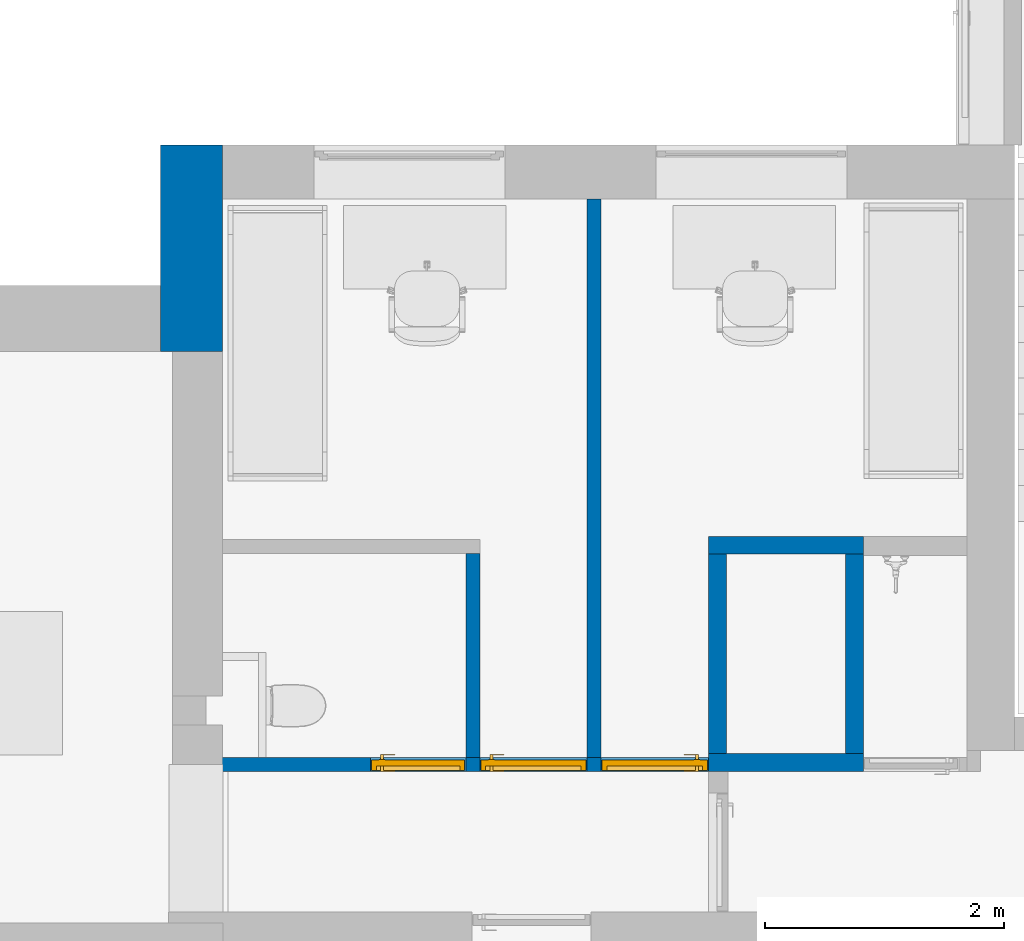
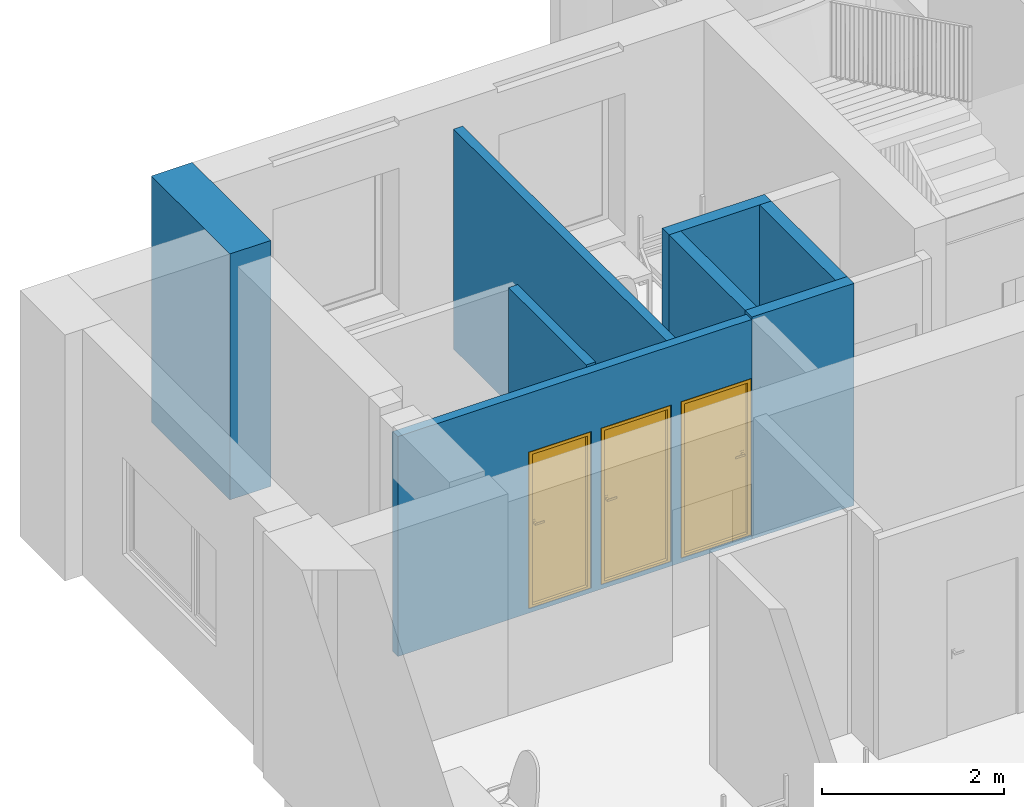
# One storey, part 7 of 46: 8 walls, 3 doors, 7 openings.
"""IFC2X3 building model written with IfcOpenShell, lengths in millimetres."""

from ifc_helpers import new_model, entity, si_unit, converted_unit, derived_unit, direction, frame, frame_2d, origin, place, context, subcontext, project, spatial, rectangle, extrude, faceted_brep, source, transform, mapped, material, material_list, layer, layer_set, layer_usage, type_object, type_shapes, element, fill, save


model = new_model("IFC2X3")

# Units and contexts
model_context = context("Model", 3, precision=0.01, world=origin(), true_north=direction((6.12303176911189e-17, 1.0)))
body_context = subcontext(model_context, "Body", "Model", "MODEL_VIEW")
ifc_project = project(units=[si_unit("LENGTHUNIT", "METRE", prefix="MILLI"), si_unit("AREAUNIT", "SQUARE_METRE"), si_unit("VOLUMEUNIT", "CUBIC_METRE"), converted_unit("PLANEANGLEUNIT", "DEGREE", entity("IfcRatioMeasure", 0.0174532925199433), si_unit("PLANEANGLEUNIT", "RADIAN"), dimensions=[0, 0, 0, 0, 0, 0, 0]), si_unit("MASSUNIT", "GRAM", prefix="KILO"), derived_unit("MASSDENSITYUNIT", [(si_unit("MASSUNIT", "GRAM", prefix="KILO"), 1), (si_unit("LENGTHUNIT", "METRE"), -3)]), si_unit("TIMEUNIT", "SECOND"), si_unit("FREQUENCYUNIT", "HERTZ"), si_unit("THERMODYNAMICTEMPERATUREUNIT", "DEGREE_CELSIUS"), derived_unit("THERMALTRANSMITTANCEUNIT", [(si_unit("MASSUNIT", "GRAM", prefix="KILO"), 1), (si_unit("THERMODYNAMICTEMPERATUREUNIT", "KELVIN"), -1), (si_unit("TIMEUNIT", "SECOND"), -3)]), derived_unit("VOLUMETRICFLOWRATEUNIT", [(si_unit("LENGTHUNIT", "METRE"), 3), (si_unit("TIMEUNIT", "SECOND"), -1)]), si_unit("ELECTRICCURRENTUNIT", "AMPERE"), si_unit("ELECTRICVOLTAGEUNIT", "VOLT"), si_unit("POWERUNIT", "WATT"), si_unit("FORCEUNIT", "NEWTON", prefix="KILO"), si_unit("ILLUMINANCEUNIT", "LUX"), si_unit("LUMINOUSFLUXUNIT", "LUMEN"), si_unit("LUMINOUSINTENSITYUNIT", "CANDELA"), derived_unit("USERDEFINED", [(si_unit("MASSUNIT", "GRAM", prefix="KILO"), -1), (si_unit("LENGTHUNIT", "METRE"), -2), (si_unit("TIMEUNIT", "SECOND"), 3), (si_unit("LUMINOUSFLUXUNIT", "LUMEN"), 1)]), derived_unit("LINEARVELOCITYUNIT", [(si_unit("LENGTHUNIT", "METRE"), 1), (si_unit("TIMEUNIT", "SECOND"), -1)]), si_unit("PRESSUREUNIT", "PASCAL"), derived_unit("USERDEFINED", [(si_unit("LENGTHUNIT", "METRE"), -2), (si_unit("MASSUNIT", "GRAM", prefix="KILO"), 1), (si_unit("TIMEUNIT", "SECOND"), -2)]), derived_unit("LINEARFORCEUNIT", [(si_unit("MASSUNIT", "GRAM", prefix="KILO"), 1), (si_unit("LENGTHUNIT", "METRE"), 1), (si_unit("TIMEUNIT", "SECOND"), -2), (si_unit("LENGTHUNIT", "METRE"), -1)]), derived_unit("PLANARFORCEUNIT", [(si_unit("MASSUNIT", "GRAM", prefix="KILO"), 1), (si_unit("LENGTHUNIT", "METRE"), 1), (si_unit("TIMEUNIT", "SECOND"), -2), (si_unit("LENGTHUNIT", "METRE"), -2)])], contexts=[model_context])

# Site, building, storey
site_placement = place(None, origin())
site = spatial("IfcSite", under=ifc_project, at=site_placement, Name="Default", CompositionType="ELEMENT")
building_placement = place(site_placement, origin())
building = spatial("IfcBuilding", under=site, at=building_placement, Name="SMA ARH", CompositionType="ELEMENT")
storey_placement = place(building_placement, origin())
storey = spatial("IfcBuildingStorey", under=building, at=storey_placement, Name="1 Korrus", CompositionType="ELEMENT", Elevation=0.0)

# Walls
ifc_material_1 = material(Name="_ol.olev sein")
ifc_layer_1 = layer(ifc_material_1, 520.0)
ifc_layer_set_1 = layer_set([ifc_layer_1], Name="Basic Wall:Generic - 520mm")
ifc_layer_usage_1 = layer_usage(ifc_layer_set_1, "AXIS2", "NEGATIVE", 260.0)
wall_type_1 = type_object("IfcWallType", Name="Basic Wall:Generic - 520mm", PredefinedType="STANDARD", material=ifc_layer_set_1)
wall_1_placement = place(storey_placement, frame((1905.0, 11220.0, 0.0), z_axis=(0.0, 0.0, 1.0), x_axis=(0.0, 1.0, 0.0)))
element("IfcWallStandardCase", 1, at=wall_1_placement, inside=storey, type_object=wall_type_1, material=ifc_layer_usage_1, Name="Basic Wall:Generic - 520mm", ObjectType="Basic Wall:Generic - 520mm", context=body_context, shape_type="SweptSolid", body=[
    extrude(rectangle(XDim=1726.2030428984, YDim=520.0, at=frame_2d((863.101521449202, -5.6843418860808e-14), x_axis=(-1.0, 0.0))), origin(), (0.0, 0.0, 1.0), 3299.99999999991),
])
ifc_material_2 = material(Name="EST. Müüritis. Väikeplokk. Kergkruusplokk")
ifc_layer_2 = layer(ifc_material_2, 150.0)
ifc_layer_set_2 = layer_set([ifc_layer_2], Name="Basic Wall:SS-02_ 150mm šahtide vahesein")
ifc_layer_usage_2 = layer_usage(ifc_layer_set_2, "AXIS2", "POSITIVE", -75.0)
wall_type_2 = type_object("IfcWallType", Name="Basic Wall:SS-02_ 150mm šahtide vahesein", PredefinedType="STANDARD", material=ifc_layer_set_2)
wall_2_placement = place(storey_placement, frame((6235.32130046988, 9595.0, 0.0)))
element("IfcWallStandardCase", 2, at=wall_2_placement, inside=storey, type_object=wall_type_2, material=ifc_layer_usage_2, Name="Basic Wall:SS-02_ 150mm šahtide vahesein", ObjectType="Basic Wall:SS-02_ 150mm šahtide vahesein", context=body_context, shape_type="SweptSolid", body=[
    extrude(rectangle(XDim=1298.40364972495, YDim=150.000000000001, at=frame_2d((649.201824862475, -4.9737991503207e-14), x_axis=(-1.0, 0.0))), origin(), (0.0, 0.0, 1.0), 2979.99999999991),
])

# Wall, openings
ifc_layer_usage_3 = layer_usage(ifc_layer_set_2, "AXIS2", "POSITIVE", -75.0)
wall_3_placement = place(storey_placement, frame((7533.72495019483, 7775.0, 0.0), z_axis=(0.0, 0.0, 1.0), x_axis=(-1.0, 0.0, 0.0)))
wall_3 = element("IfcWallStandardCase", 3, at=wall_3_placement, inside=storey, type_object=wall_type_2, material=ifc_layer_usage_3, Name="Basic Wall:SS-02_ 150mm šahtide vahesein", ObjectType="Basic Wall:SS-02_ 150mm šahtide vahesein", context=body_context, shape_type="SweptSolid", body=[
    extrude(rectangle(XDim=1298.40364972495, YDim=150.000000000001, at=frame_2d((649.201824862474, -4.9737991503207e-14), x_axis=(-1.0, 0.0))), origin(), (0.0, 0.0, 1.0), 2979.99999999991),
])
opening_1_placement = place(wall_3_placement, origin())
element("IfcOpeningElement", 4, at=opening_1_placement, cuts=wall_3, Name="Basic Wall:SS-02_ 150mm šahtide vahesein", ObjectType="Opening", context=body_context, shape_type="SweptSolid", body=[
    extrude(rectangle(XDim=2099.99999999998, YDim=900.0, at=frame_2d((5.40012479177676e-13, 0.0), x_axis=(0.0, 1.0))), frame((1748.40364972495, -1449.0, 1110.0), z_axis=(0.0, 1.0, 0.0), x_axis=(-1.0, 0.0, 0.0)), (0.0, 0.0, 1.0), 3048.0),
])
opening_2_placement = place(wall_3_placement, origin())
element("IfcOpeningElement", 5, at=opening_2_placement, cuts=wall_3, Name="Basic Wall:SS-02_ 150mm šahtide vahesein", ObjectType="Opening", context=body_context, shape_type="SweptSolid", body=[
    extrude(rectangle(XDim=2099.99999999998, YDim=800.0, at=frame_2d((0.0, -1.13686837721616e-13), x_axis=(0.0, 1.0))), frame((-400.0, -1565.0, 1110.0), z_axis=(0.0, 1.0, 0.0), x_axis=(-1.0, 0.0, 0.0)), (0.0, 0.0, 1.0), 3048.0),
])

# Wall, opening
ifc_layer_usage_4 = layer_usage(ifc_layer_set_2, "AXIS2", "POSITIVE", -75.0)
wall_4_placement = place(storey_placement, frame((6310.32130046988, 7850.0, 0.0), z_axis=(0.0, 0.0, 1.0), x_axis=(0.0, 1.0, 0.0)))
wall_4 = element("IfcWallStandardCase", 6, at=wall_4_placement, inside=storey, type_object=wall_type_2, material=ifc_layer_usage_4, Name="Basic Wall:SS-02_ 150mm šahtide vahesein", ObjectType="Basic Wall:SS-02_ 150mm šahtide vahesein", context=body_context, shape_type="SweptSolid", body=[
    extrude(rectangle(XDim=1669.99999999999, YDim=150.000000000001, at=frame_2d((834.999999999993, 0.0), x_axis=(-1.0, 0.0))), origin(), (0.0, 0.0, 1.0), 2979.99999999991),
])
opening_3_placement = place(wall_4_placement, origin())
element("IfcOpeningElement", 7, at=opening_3_placement, cuts=wall_4, Name="Basic Wall:SS-02_ 150mm šahtide vahesein", ObjectType="Opening", context=body_context, shape_type="SweptSolid", body=[
    extrude(rectangle(XDim=2099.99999999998, YDim=116.0, at=frame_2d((0.0, 0.0), x_axis=(0.0, 1.0))), frame((-92.0, 75.0, 1110.0), z_axis=(0.0, 1.0, 0.0), x_axis=(-1.0, 0.0, 0.0)), (0.0, 0.0, 1.0), 900.0),
])

ifc_layer_usage_5 = layer_usage(ifc_layer_set_2, "AXIS2", "POSITIVE", -75.0)
wall_5_placement = place(storey_placement, frame((7458.72495019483, 9520.0, 0.0), z_axis=(0.0, 0.0, 1.0), x_axis=(0.0, -1.0, 0.0)))
wall_5 = element("IfcWallStandardCase", 8, at=wall_5_placement, inside=storey, type_object=wall_type_2, material=ifc_layer_usage_5, Name="Basic Wall:SS-02_ 150mm šahtide vahesein", ObjectType="Basic Wall:SS-02_ 150mm šahtide vahesein", context=body_context, shape_type="SweptSolid", body=[
    extrude(rectangle(XDim=1669.99999999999, YDim=150.000000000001, at=frame_2d((834.999999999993, 1.4210854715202e-14), x_axis=(-1.0, 0.0))), origin(), (0.0, 0.0, 1.0), 2979.99999999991),
])
opening_4_placement = place(wall_5_placement, origin())
element("IfcOpeningElement", 9, at=opening_4_placement, cuts=wall_5, Name="Basic Wall:SS-02_ 150mm šahtide vahesein", ObjectType="Opening", context=body_context, shape_type="SweptSolid", body=[
    extrude(rectangle(XDim=2099.99999999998, YDim=116.0, at=frame_2d((0.0, 1.13686837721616e-13), x_axis=(0.0, 1.0))), frame((1762.0, 75.0, 1110.0), z_axis=(0.0, 1.0, 0.0), x_axis=(1.0, 0.0, 0.0)), (0.0, 0.0, 1.0), 800.0),
])

# Walls
ifc_material_3 = material(Name="EST. Ehitusplaat. Kipsplaat")
ifc_layer_3 = layer(ifc_material_3, 12.5)
ifc_layer_4 = layer(ifc_material_3, 12.5)
ifc_material_4 = material(Name="EST. Soojustus. Mineraalvill. Default")
ifc_layer_5 = layer(ifc_material_4, 66.0)
ifc_layer_6 = layer(ifc_material_3, 12.5)
ifc_layer_7 = layer(ifc_material_3, 12.5)
ifc_layer_set_3 = layer_set([ifc_layer_3, ifc_layer_4, ifc_layer_5, ifc_layer_6, ifc_layer_7], Name="Basic Wall:SS-05_Kips, 66mm metallkarkass")
ifc_layer_usage_6 = layer_usage(ifc_layer_set_3, "AXIS2", "NEGATIVE", 58.0)
wall_type_3 = type_object("IfcWallType", Name="Basic Wall:SS-05_Kips, 66mm metallkarkass", PredefinedType="STANDARD", material=ifc_layer_set_3)
wall_6_placement = place(storey_placement, frame((4261.32130046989, 9527.50000000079, 0.0), z_axis=(0.0, 0.0, 1.0), x_axis=(0.0, -1.0, 0.0)))
element("IfcWallStandardCase", 10, at=wall_6_placement, inside=storey, type_object=wall_type_3, material=ifc_layer_usage_6, Name="Basic Wall:SS-05_Kips, 66mm metallkarkass", ObjectType="Basic Wall:SS-05_Kips, 66mm metallkarkass", context=body_context, shape_type="SweptSolid", body=[
    extrude(rectangle(XDim=1711.49999999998, YDim=116.0, at=frame_2d((855.749999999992, -2.48689957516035e-14), x_axis=(-1.0, 0.0))), origin(), (0.0, 0.0, 1.0), 2979.99999999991),
])
ifc_layer_usage_7 = layer_usage(ifc_layer_set_3, "AXIS2", "NEGATIVE", 58.0)
wall_7_placement = place(storey_placement, frame((5277.32130046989, 12496.2030428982, 0.0), z_axis=(0.0, 0.0, 1.0), x_axis=(0.0, -1.0, 0.0)))
element("IfcWallStandardCase", 11, at=wall_7_placement, inside=storey, type_object=wall_type_3, material=ifc_layer_usage_7, Name="Basic Wall:SS-05_Kips, 66mm metallkarkass", ObjectType="Basic Wall:SS-05_Kips, 66mm metallkarkass", context=body_context, shape_type="SweptSolid", body=[
    extrude(rectangle(XDim=4680.20304289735, YDim=116.0, at=frame_2d((2340.10152144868, -3.90798504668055e-14), x_axis=(-1.0, 0.0))), origin(), (0.0, 0.0, 1.0), 2949.99999999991),
])

# Wall, openings, doors
ifc_layer_usage_8 = layer_usage(ifc_layer_set_3, "AXIS2", "NEGATIVE", 58.0)
wall_8_placement = place(storey_placement, frame((6235.32130046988, 7758.0, 0.0), z_axis=(0.0, 0.0, 1.0), x_axis=(-1.0, 0.0, 0.0)))
wall_8 = element("IfcWallStandardCase", 12, at=wall_8_placement, inside=storey, type_object=wall_type_3, material=ifc_layer_usage_8, Name="Basic Wall:SS-05_Kips, 66mm metallkarkass", ObjectType="Basic Wall:SS-05_Kips, 66mm metallkarkass", context=body_context, shape_type="SweptSolid", body=[
    extrude(rectangle(XDim=4490.32130046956, YDim=116.0, at=frame_2d((2245.16065023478, -1.13686837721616e-13), x_axis=(-1.0, 0.0))), origin(), (0.0, 0.0, 1.0), 2949.99999999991),
])
opening_5_placement = place(wall_8_placement, frame((900.0, 58.0, 60.0)))
opening_5 = element("IfcOpeningElement", 13, at=opening_5_placement, cuts=wall_8, Name="SMA_D01, 1-poolne:SU-P-05 - 900x2100 TUBA:1", ObjectType="Opening", context=body_context, shape_type="SweptSolid", body=[
    extrude(rectangle(XDim=2099.99999999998, YDim=900.0, at=frame_2d((1049.99999999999, 450.0), x_axis=(1.0, 0.0))), frame((0.0, 0.0, 0.0), z_axis=(0.0, -1.0, 0.0), x_axis=(0.0, 0.0, 1.0)), (0.0, 0.0, 1.0), 116.0),
])
opening_6_placement = place(wall_8_placement, frame((1916.0, 58.0, 60.0)))
opening_6 = element("IfcOpeningElement", 14, at=opening_6_placement, cuts=wall_8, Name="SMA_D01, 1-poolne:SU-P-05 - 900x2100 TUBA:1", ObjectType="Opening", context=body_context, shape_type="SweptSolid", body=[
    extrude(rectangle(XDim=2099.99999999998, YDim=900.0, at=frame_2d((1049.99999999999, 450.0), x_axis=(1.0, 0.0))), frame((0.0, 0.0, 0.0), z_axis=(0.0, -1.0, 0.0), x_axis=(0.0, 0.0, 1.0)), (0.0, 0.0, 1.0), 116.0),
])
opening_7_placement = place(wall_8_placement, frame((2832.0, 58.0, 60.0)))
opening_7 = element("IfcOpeningElement", 15, at=opening_7_placement, cuts=wall_8, Name="SMA_D01, 1-poolne:SU-P-06 - 800x2100 DUŠŠ:1", ObjectType="Opening", context=body_context, shape_type="SweptSolid", body=[
    extrude(rectangle(XDim=2099.99999999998, YDim=800.0, at=frame_2d((1049.99999999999, 400.0), x_axis=(1.0, 0.0))), frame((0.0, 0.0, 0.0), z_axis=(0.0, -1.0, 0.0), x_axis=(0.0, 0.0, 1.0)), (0.0, 0.0, 1.0), 116.0),
])
ifc_material_5 = material(Name="EST. Metall. Alumiinium. Värvitud. RAL7023 (Concrete grey)")
ifc_material_6 = material(Name="<Unnamed>")
ifc_material_7 = material(Name="EST. Klaas. 3x. Default")
ifc_material_list_1 = material_list([ifc_material_5, ifc_material_6, ifc_material_5, ifc_material_6, ifc_material_6, ifc_material_7, ifc_material_5])
door_style_1 = type_object("IfcDoorStyle", Name="SMA_D01, 1-poolne:SU-P-05 - 900x2100 TUBA", ConstructionType="NOTDEFINED", OperationType="SINGLE_SWING_LEFT", ParameterTakesPrecedence=False, Sizeable=False, material=ifc_material_list_1)
shared_shape_1 = source(origin(), body_context, "Body", "Brep", [
    faceted_brep([(790.0, 6.0, 1112.5), (695.0, 6.0, 1112.5), (695.0, 1.0, 1112.5), (815.0, 1.0, 1112.5), (815.0, 44.0, 1112.5), (790.0, 44.0, 1112.5), (790.0, 6.0, 1087.5), (790.0, 44.0, 1087.5), (815.0, 44.0, 1087.5), (815.0, 1.0, 1087.5), (695.0, 1.0, 1087.5), (695.0, 6.0, 1087.5)], [[[0, 1, 2, 3, 4, 5]], [[6, 7, 8, 9, 10, 11]], [[5, 7, 6, 0]], [[4, 8, 7, 5]], [[3, 9, 8, 4]], [[2, 10, 9, 3]], [[1, 11, 10, 2]], [[0, 6, 11, 1]]]),
    faceted_brep([(777.500000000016, 44.0, 1137.5), (827.500000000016, 44.0, 1137.5), (827.500000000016, 46.0, 1137.5), (777.500000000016, 46.0, 1137.5), (777.500000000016, 44.0, 1017.5), (777.500000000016, 46.0, 1017.5), (827.500000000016, 46.0, 1017.5), (827.500000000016, 44.0, 1017.5)], [[[0, 1, 2, 3]], [[4, 5, 6, 7]], [[3, 5, 4, 0]], [[2, 6, 5, 3]], [[1, 7, 6, 2]], [[0, 4, 7, 1]]]),
    faceted_brep([(790.0, 136.0, 1112.5), (790.0, 98.0, 1112.5), (815.0, 98.0, 1112.5), (815.0, 141.0, 1112.5), (695.0, 141.0, 1112.5), (695.0, 136.0, 1112.5), (790.0, 136.0, 1087.5), (695.0, 136.0, 1087.5), (695.0, 141.0, 1087.5), (815.0, 141.0, 1087.5), (815.0, 98.0, 1087.5), (790.0, 98.0, 1087.5)], [[[0, 1, 2, 3, 4, 5]], [[6, 7, 8, 9, 10, 11]], [[1, 0, 6, 11]], [[2, 1, 11, 10]], [[3, 2, 10, 9]], [[4, 3, 9, 8]], [[5, 4, 8, 7]], [[0, 5, 7, 6]]]),
    faceted_brep([(777.500000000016, 98.0, 1137.5), (777.500000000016, 96.0, 1137.5), (827.500000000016, 96.0, 1137.5), (827.500000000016, 98.0, 1137.5), (777.500000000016, 98.0, 1017.5), (827.500000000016, 98.0, 1017.5), (827.500000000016, 96.0, 1017.5), (777.500000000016, 96.0, 1017.5)], [[[0, 1, 2, 3]], [[4, 5, 6, 7]], [[1, 0, 4, 7]], [[2, 1, 7, 6]], [[3, 2, 6, 5]], [[0, 3, 5, 4]]]),
    faceted_brep([(50.0, 6.0, 30.0), (50.0, 46.0, 30.0), (50.0, 46.0, 20.0), (50.0, 46.0, 0.0), (50.0, 6.0, 0.0), (850.0, 6.0, 30.0), (850.0, 6.0, 0.0), (850.0, 46.0, 0.0), (850.0, 46.0, 20.0), (850.0, 46.0, 30.0), (35.0, 46.0, 0.0), (35.0, 96.0, 0.0), (865.0, 96.0, 0.0), (865.0, 46.0, 0.0), (35.0, 96.0, 20.0), (35.0, 46.0, 20.0), (865.0, 96.0, 20.0), (865.0, 46.0, 20.0)], [[[0, 1, 2, 3, 4]], [[5, 6, 7, 8, 9]], [[4, 6, 5, 0]], [[3, 10, 11, 12, 13, 7, 6, 4]], [[9, 8, 2, 1]], [[0, 5, 9, 1]], [[14, 11, 10, 15]], [[16, 17, 13, 12]], [[15, 2, 8, 17, 16, 14]], [[10, 3, 2, 15]], [[14, 16, 12, 11]], [[17, 8, 7, 13]]]),
    faceted_brep([(10.0, 6.0, 0.0), (10.0, 96.0, 0.0), (35.0, 96.0, 0.0), (35.0, 46.0, 0.0), (50.0, 46.0, 0.0), (50.0, 6.0, 0.0), (50.0, 6.0, 2050.0), (850.0, 6.0, 2050.0), (850.0, 6.0, 0.0), (890.0, 6.0, 0.0), (890.0, 6.0, 2090.0), (10.0, 6.0, 2090.0), (50.0, 46.0, 2050.0), (35.0, 46.0, 2065.0), (865.0, 46.0, 2065.0), (865.0, 46.0, 0.0), (850.0, 46.0, 0.0), (850.0, 46.0, 2050.0), (35.0, 96.0, 2065.0), (10.0, 96.0, 2090.0), (890.0, 96.0, 2090.0), (890.0, 96.0, 0.0), (865.0, 96.0, 0.0), (865.0, 96.0, 2065.0)], [[[0, 1, 2, 3, 4, 5]], [[5, 6, 7, 8, 9, 10, 11, 0]], [[4, 12, 6, 5]], [[3, 13, 14, 15, 16, 17, 12, 4]], [[2, 18, 13, 3]], [[1, 19, 20, 21, 22, 23, 18, 2]], [[0, 11, 19, 1]], [[9, 21, 20, 10]], [[8, 16, 15, 22, 21, 9]], [[7, 17, 16, 8]], [[14, 23, 22, 15]], [[6, 12, 17, 7]], [[13, 18, 23, 14]], [[10, 20, 19, 11]]]),
    faceted_brep([(865.0, 46.0, 2065.0), (35.0, 46.0, 2065.0), (35.0, 46.0, 20.0), (865.0, 46.0, 20.0), (865.0, 96.0, 2065.0), (865.0, 96.0, 20.0), (35.0, 96.0, 20.0), (35.0, 96.0, 2065.0)], [[[0, 1, 2, 3]], [[4, 5, 6, 7]], [[3, 5, 4, 0]], [[2, 6, 5, 3]], [[1, 7, 6, 2]], [[0, 4, 7, 1]]]),
])
type_shapes(door_style_1, [shared_shape_1])
door_1_placement = place(opening_5_placement, frame((0.0, 0.0, 0.0), z_axis=(0.0, 0.0, 1.0), x_axis=(-1.0, 0.0, 0.0)))
door_1 = element("IfcDoor", 16, at=door_1_placement, inside=storey, type_object=door_style_1, material=ifc_material_5, Name="SMA_D01, 1-poolne:SU-P-05 - 900x2100 TUBA", ObjectType="SMA_D01, 1-poolne:SU-P-05 - 900x2100 TUBA", OverallHeight=2099.99999999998, OverallWidth=900.0, context=body_context, shape_type="MappedRepresentation", body=[
    mapped(shared_shape_1, transform((0.0, 0.0, 0.0), scale=1.0)),
])
fill(opening_5, door_1)
ifc_material_list_2 = material_list([ifc_material_6, ifc_material_7, ifc_material_6, ifc_material_5, ifc_material_5, ifc_material_5, ifc_material_6])
door_style_2 = type_object("IfcDoorStyle", Name="SMA_D01, 1-poolne:SU-P-05 - 900x2100 TUBA", ConstructionType="NOTDEFINED", OperationType="SINGLE_SWING_RIGHT", ParameterTakesPrecedence=False, Sizeable=False, material=ifc_material_list_2)
shared_shape_2 = source(origin(), body_context, "Body", "Brep", [
    faceted_brep([(110.0, 6.0, 1112.5), (110.0, 44.0, 1112.5), (85.0, 44.0, 1112.5), (85.0, 1.0, 1112.5), (205.0, 1.0, 1112.5), (205.0, 6.0, 1112.5), (110.0, 6.0, 1087.5), (205.0, 6.0, 1087.5), (205.0, 1.0, 1087.5), (85.0, 1.0, 1087.5), (85.0, 44.0, 1087.5), (110.0, 44.0, 1087.5)], [[[0, 1, 2, 3, 4, 5]], [[6, 7, 8, 9, 10, 11]], [[1, 0, 6, 11]], [[2, 1, 11, 10]], [[3, 2, 10, 9]], [[4, 3, 9, 8]], [[5, 4, 8, 7]], [[0, 5, 7, 6]]]),
    faceted_brep([(122.5, 44.0, 1137.5), (122.5, 46.0, 1137.5), (72.5000000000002, 46.0, 1137.5), (72.5000000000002, 44.0, 1137.5), (122.5, 44.0, 1017.5), (72.5000000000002, 44.0, 1017.5), (72.5000000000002, 46.0, 1017.5), (122.5, 46.0, 1017.5)], [[[0, 1, 2, 3]], [[4, 5, 6, 7]], [[1, 0, 4, 7]], [[2, 1, 7, 6]], [[3, 2, 6, 5]], [[0, 3, 5, 4]]]),
    faceted_brep([(110.0, 136.0, 1112.5), (205.0, 136.0, 1112.5), (205.0, 141.0, 1112.5), (85.0, 141.0, 1112.5), (85.0, 98.0, 1112.5), (110.0, 98.0, 1112.5), (110.0, 136.0, 1087.5), (110.0, 98.0, 1087.5), (85.0, 98.0, 1087.5), (85.0, 141.0, 1087.5), (205.0, 141.0, 1087.5), (205.0, 136.0, 1087.5)], [[[0, 1, 2, 3, 4, 5]], [[6, 7, 8, 9, 10, 11]], [[5, 7, 6, 0]], [[4, 8, 7, 5]], [[3, 9, 8, 4]], [[2, 10, 9, 3]], [[1, 11, 10, 2]], [[0, 6, 11, 1]]]),
    faceted_brep([(122.5, 98.0, 1137.5), (72.5000000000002, 98.0, 1137.5), (72.5000000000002, 96.0, 1137.5), (122.5, 96.0, 1137.5), (122.5, 98.0, 1017.5), (122.5, 96.0, 1017.5), (72.5000000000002, 96.0, 1017.5), (72.5000000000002, 98.0, 1017.5)], [[[0, 1, 2, 3]], [[4, 5, 6, 7]], [[3, 5, 4, 0]], [[2, 6, 5, 3]], [[1, 7, 6, 2]], [[0, 4, 7, 1]]]),
    faceted_brep([(850.0, 6.0, 30.0), (850.0, 6.0, 0.0), (850.0, 46.0, 0.0), (850.0, 46.0, 20.0), (850.0, 46.0, 30.0), (50.0, 6.0, 30.0), (50.0, 46.0, 30.0), (50.0, 46.0, 20.0), (50.0, 46.0, 0.0), (50.0, 6.0, 0.0), (35.0, 46.0, 0.0), (35.0, 96.0, 0.0), (865.0, 96.0, 0.0), (865.0, 46.0, 0.0), (865.0, 96.0, 20.0), (865.0, 46.0, 20.0), (35.0, 96.0, 20.0), (35.0, 46.0, 20.0)], [[[0, 1, 2, 3, 4]], [[5, 6, 7, 8, 9]], [[1, 0, 5, 9]], [[2, 1, 9, 8, 10, 11, 12, 13]], [[6, 4, 3, 7]], [[0, 4, 6, 5]], [[14, 15, 13, 12]], [[16, 11, 10, 17]], [[15, 14, 16, 17, 7, 3]], [[13, 15, 3, 2]], [[14, 12, 11, 16]], [[17, 10, 8, 7]]]),
    faceted_brep([(890.0, 6.0, 0.0), (850.0, 6.0, 0.0), (850.0, 46.0, 0.0), (865.0, 46.0, 0.0), (865.0, 96.0, 0.0), (890.0, 96.0, 0.0), (890.0, 6.0, 2090.0), (10.0, 6.0, 2090.0), (10.0, 6.0, 0.0), (50.0, 6.0, 0.0), (50.0, 6.0, 2050.0), (850.0, 6.0, 2050.0), (850.0, 46.0, 2050.0), (50.0, 46.0, 2050.0), (50.0, 46.0, 0.0), (35.0, 46.0, 0.0), (35.0, 46.0, 2065.0), (865.0, 46.0, 2065.0), (865.0, 96.0, 2065.0), (35.0, 96.0, 2065.0), (35.0, 96.0, 0.0), (10.0, 96.0, 0.0), (10.0, 96.0, 2090.0), (890.0, 96.0, 2090.0)], [[[0, 1, 2, 3, 4, 5]], [[1, 0, 6, 7, 8, 9, 10, 11]], [[2, 1, 11, 12]], [[3, 2, 12, 13, 14, 15, 16, 17]], [[4, 3, 17, 18]], [[5, 4, 18, 19, 20, 21, 22, 23]], [[0, 5, 23, 6]], [[8, 7, 22, 21]], [[9, 8, 21, 20, 15, 14]], [[10, 9, 14, 13]], [[16, 15, 20, 19]], [[11, 10, 13, 12]], [[17, 16, 19, 18]], [[7, 6, 23, 22]]]),
    faceted_brep([(35.0, 46.0, 2065.0), (35.0, 46.0, 20.0), (865.0, 46.0, 20.0), (865.0, 46.0, 2065.0), (35.0, 96.0, 2065.0), (865.0, 96.0, 2065.0), (865.0, 96.0, 20.0), (35.0, 96.0, 20.0)], [[[0, 1, 2, 3]], [[4, 5, 6, 7]], [[1, 0, 4, 7]], [[2, 1, 7, 6]], [[3, 2, 6, 5]], [[0, 3, 5, 4]]]),
])
type_shapes(door_style_2, [shared_shape_2])
door_2_placement = place(opening_6_placement, frame((0.0, 0.0, 0.0), z_axis=(0.0, 0.0, 1.0), x_axis=(-1.0, 0.0, 0.0)))
door_2 = element("IfcDoor", 17, at=door_2_placement, inside=storey, type_object=door_style_2, material=ifc_material_5, Name="SMA_D01, 1-poolne:SU-P-05 - 900x2100 TUBA", ObjectType="SMA_D01, 1-poolne:SU-P-05 - 900x2100 TUBA", OverallHeight=2099.99999999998, OverallWidth=900.0, context=body_context, shape_type="MappedRepresentation", body=[
    mapped(shared_shape_2, transform((0.0, 0.0, 0.0), scale=1.0)),
])
fill(opening_6, door_2)
ifc_material_list_3 = material_list([ifc_material_5, ifc_material_7, ifc_material_6, ifc_material_6, ifc_material_5, ifc_material_6, ifc_material_5])
door_style_3 = type_object("IfcDoorStyle", Name="SMA_D01, 1-poolne:SU-P-06 - 800x2100 DUŠŠ", ConstructionType="NOTDEFINED", OperationType="NOTDEFINED", ParameterTakesPrecedence=False, Sizeable=False, material=ifc_material_list_3)
shared_shape_3 = source(origin(), body_context, "Body", "Brep", [
    faceted_brep([(110.0, 6.0, 1112.5), (110.0, 44.0, 1112.5), (85.0, 44.0, 1112.5), (85.0, 1.0, 1112.5), (205.0, 1.0, 1112.5), (205.0, 6.0, 1112.5), (110.0, 6.0, 1087.5), (205.0, 6.0, 1087.5), (205.0, 1.0, 1087.5), (85.0, 1.0, 1087.5), (85.0, 44.0, 1087.5), (110.0, 44.0, 1087.5)], [[[0, 1, 2, 3, 4, 5]], [[6, 7, 8, 9, 10, 11]], [[1, 0, 6, 11]], [[2, 1, 11, 10]], [[3, 2, 10, 9]], [[4, 3, 9, 8]], [[5, 4, 8, 7]], [[0, 5, 7, 6]]]),
    faceted_brep([(122.5, 44.0, 1137.5), (122.5, 46.0, 1137.5), (72.4999999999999, 46.0, 1137.5), (72.4999999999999, 44.0, 1137.5), (122.5, 44.0, 1017.5), (72.4999999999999, 44.0, 1017.5), (72.4999999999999, 46.0, 1017.5), (122.5, 46.0, 1017.5)], [[[0, 1, 2, 3]], [[4, 5, 6, 7]], [[1, 0, 4, 7]], [[2, 1, 7, 6]], [[3, 2, 6, 5]], [[0, 3, 5, 4]]]),
    faceted_brep([(110.0, 136.0, 1112.5), (205.0, 136.0, 1112.5), (205.0, 141.0, 1112.5), (85.0, 141.0, 1112.5), (85.0, 98.0, 1112.5), (110.0, 98.0, 1112.5), (110.0, 136.0, 1087.5), (110.0, 98.0, 1087.5), (85.0, 98.0, 1087.5), (85.0, 141.0, 1087.5), (205.0, 141.0, 1087.5), (205.0, 136.0, 1087.5)], [[[0, 1, 2, 3, 4, 5]], [[6, 7, 8, 9, 10, 11]], [[5, 7, 6, 0]], [[4, 8, 7, 5]], [[3, 9, 8, 4]], [[2, 10, 9, 3]], [[1, 11, 10, 2]], [[0, 6, 11, 1]]]),
    faceted_brep([(122.5, 98.0, 1137.5), (72.4999999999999, 98.0, 1137.5), (72.4999999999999, 96.0, 1137.5), (122.5, 96.0, 1137.5), (122.5, 98.0, 1017.5), (122.5, 96.0, 1017.5), (72.4999999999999, 96.0, 1017.5), (72.4999999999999, 98.0, 1017.5)], [[[0, 1, 2, 3]], [[4, 5, 6, 7]], [[3, 5, 4, 0]], [[2, 6, 5, 3]], [[1, 7, 6, 2]], [[0, 4, 7, 1]]]),
    faceted_brep([(750.0, 6.0, 30.0), (750.0, 6.0, 0.0), (750.0, 46.0, 0.0), (750.0, 46.0, 20.0), (750.0, 46.0, 30.0), (50.0, 6.0, 30.0), (50.0, 46.0, 30.0), (50.0, 46.0, 20.0), (50.0, 46.0, 0.0), (50.0, 6.0, 0.0), (35.0, 46.0, 0.0), (35.0, 96.0, 0.0), (765.0, 96.0, 0.0), (765.0, 46.0, 0.0), (765.0, 96.0, 20.0), (765.0, 46.0, 20.0), (35.0, 96.0, 20.0), (35.0, 46.0, 20.0)], [[[0, 1, 2, 3, 4]], [[5, 6, 7, 8, 9]], [[1, 0, 5, 9]], [[2, 1, 9, 8, 10, 11, 12, 13]], [[6, 4, 3, 7]], [[0, 4, 6, 5]], [[14, 15, 13, 12]], [[16, 11, 10, 17]], [[15, 14, 16, 17, 7, 3]], [[13, 15, 3, 2]], [[14, 12, 11, 16]], [[17, 10, 8, 7]]]),
    faceted_brep([(790.0, 6.0, 0.0), (750.0, 6.0, 0.0), (750.0, 46.0, 0.0), (765.0, 46.0, 0.0), (765.0, 96.0, 0.0), (790.0, 96.0, 0.0), (790.0, 6.0, 2090.0), (10.0, 6.0, 2090.0), (10.0, 6.0, 0.0), (50.0, 6.0, 0.0), (50.0, 6.0, 2050.0), (750.0, 6.0, 2050.0), (750.0, 46.0, 2050.0), (50.0, 46.0, 2050.0), (50.0, 46.0, 0.0), (35.0, 46.0, 0.0), (35.0, 46.0, 2065.0), (765.0, 46.0, 2065.0), (765.0, 96.0, 2065.0), (35.0, 96.0, 2065.0), (35.0, 96.0, 0.0), (10.0, 96.0, 0.0), (10.0, 96.0, 2090.0), (790.0, 96.0, 2090.0)], [[[0, 1, 2, 3, 4, 5]], [[1, 0, 6, 7, 8, 9, 10, 11]], [[2, 1, 11, 12]], [[3, 2, 12, 13, 14, 15, 16, 17]], [[4, 3, 17, 18]], [[5, 4, 18, 19, 20, 21, 22, 23]], [[0, 5, 23, 6]], [[8, 7, 22, 21]], [[9, 8, 21, 20, 15, 14]], [[10, 9, 14, 13]], [[16, 15, 20, 19]], [[11, 10, 13, 12]], [[17, 16, 19, 18]], [[7, 6, 23, 22]]]),
    faceted_brep([(35.0, 46.0, 2065.0), (35.0, 46.0, 20.0), (765.0, 46.0, 20.0), (765.0, 46.0, 2065.0), (35.0, 96.0, 2065.0), (765.0, 96.0, 2065.0), (765.0, 96.0, 20.0), (35.0, 96.0, 20.0)], [[[0, 1, 2, 3]], [[4, 5, 6, 7]], [[1, 0, 4, 7]], [[2, 1, 7, 6]], [[3, 2, 6, 5]], [[0, 3, 5, 4]]]),
])
type_shapes(door_style_3, [shared_shape_3])
door_3_placement = place(opening_7_placement, frame((0.0, 0.0, 0.0), z_axis=(0.0, 0.0, 1.0), x_axis=(-1.0, 0.0, 0.0)))
door_3 = element("IfcDoor", 18, at=door_3_placement, inside=storey, type_object=door_style_3, material=ifc_material_5, Name="SMA_D01, 1-poolne:SU-P-06 - 800x2100 DUŠŠ", ObjectType="SMA_D01, 1-poolne:SU-P-06 - 800x2100 DUŠŠ", OverallHeight=2099.99999999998, OverallWidth=800.0, context=body_context, shape_type="MappedRepresentation", body=[
    mapped(shared_shape_3, transform((0.0, 0.0, 0.0), scale=1.0)),
])
fill(opening_7, door_3)

save(model, "model.ifc")
